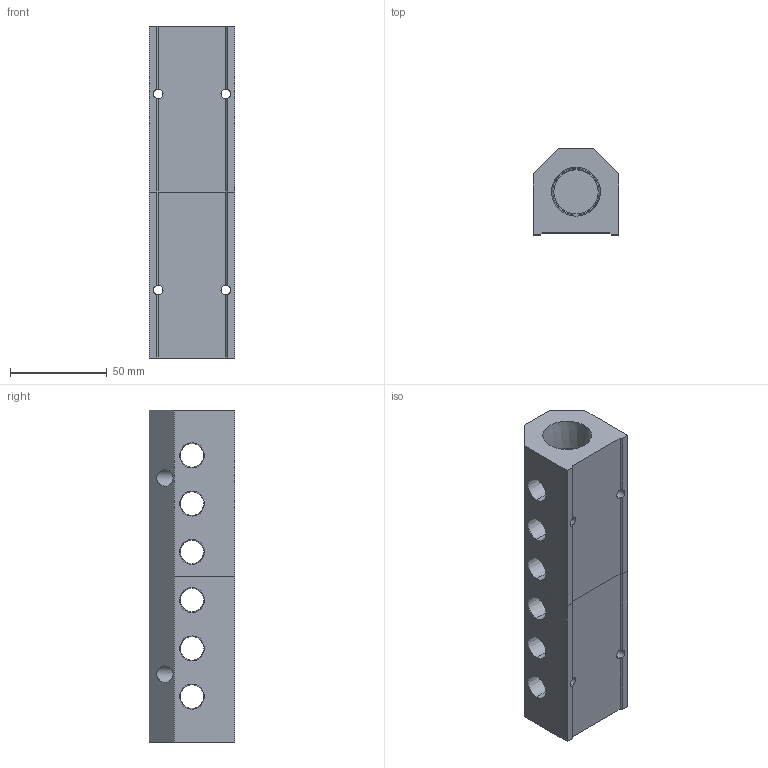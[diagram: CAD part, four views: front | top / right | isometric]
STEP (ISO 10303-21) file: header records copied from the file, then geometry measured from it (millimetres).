
FILE_DESCRIPTION (( 'STEP AP214' ), '1' );
FILE_NAME ('ALM6ACE-N4N12-172RB.step', '2022-02-06T14:18:45', ( '' ), ( '' ), 'SwSTEP 2.0', 'SolidWorks 2020', '' );
FILE_SCHEMA (( 'AUTOMOTIVE_DESIGN' ));
Length unit declared in the file: millimetre
Products named in the file (1): ALM6ACE-N4N12-172RB
Bounding box: 44.5 x 44.5 x 172 mm (x, y, z)
Volume: 204137.6 mm3; surface area: 53529.7 mm2
Topology: 2 solids, 2 shells, 365 faces, 985 edges, 646 vertices
Faces by surface type: plane 247, bspline 48, cone 46, cylinder 24
Entity records: 19655 total; most frequent: CARTESIAN_POINT 7265, ORIENTED_EDGE 1970, DIRECTION 1537, EDGE_CURVE 985, VECTOR 725, LINE 725, VERTEX_POINT 646, EDGE_LOOP 431
